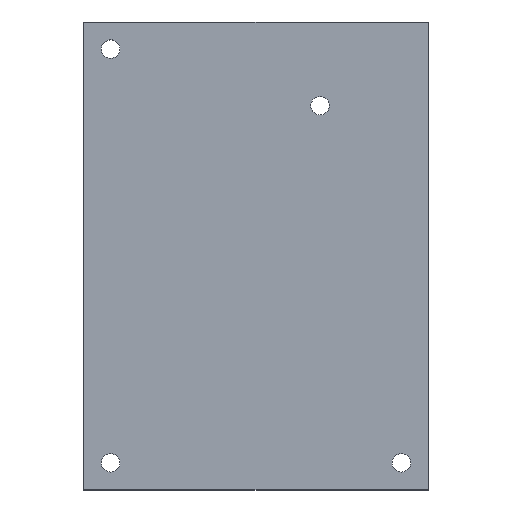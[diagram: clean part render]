
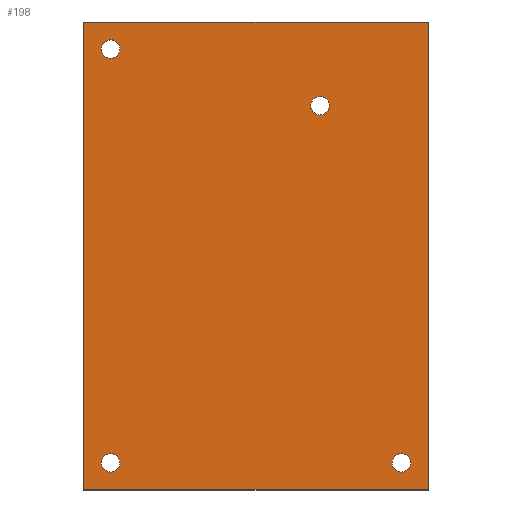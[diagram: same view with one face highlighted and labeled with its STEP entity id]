
A CAD part, top view. The second image highlights one B-rep face of the part: STEP entity #198.
In plain terms, the highlighted planar face has unit normal (0, 0, 1).
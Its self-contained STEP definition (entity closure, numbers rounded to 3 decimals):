
#42 = VERTEX_POINT('',#43);
#43 = CARTESIAN_POINT('',(144.,-119.,0.71));
#49 = EDGE_CURVE('',#42,#50,#52,.T.);
#50 = VERTEX_POINT('',#51);
#51 = CARTESIAN_POINT('',(116.,-119.,0.71));
#52 = LINE('',#53,#54);
#53 = CARTESIAN_POINT('',(144.,-119.,0.71));
#54 = VECTOR('',#55,1.);
#55 = DIRECTION('',(-1.,0.,0.));
#82 = VERTEX_POINT('',#83);
#83 = CARTESIAN_POINT('',(144.,-81.,0.71));
#89 = EDGE_CURVE('',#82,#42,#90,.T.);
#90 = LINE('',#91,#92);
#91 = CARTESIAN_POINT('',(144.,-81.,0.71));
#92 = VECTOR('',#93,1.);
#93 = DIRECTION('',(0.,-1.,0.));
#111 = EDGE_CURVE('',#50,#112,#114,.T.);
#112 = VERTEX_POINT('',#113);
#113 = CARTESIAN_POINT('',(116.,-81.,0.71));
#114 = LINE('',#115,#116);
#115 = CARTESIAN_POINT('',(116.,-119.,0.71));
#116 = VECTOR('',#117,1.);
#117 = DIRECTION('',(0.,1.,0.));
#198 = ADVANCED_FACE('',(#199,#210,#221,#232,#243),#254,.T.);
#199 = FACE_BOUND('',#200,.T.);
#200 = EDGE_LOOP('',(#201,#202,#203,#209));
#201 = ORIENTED_EDGE('',*,*,#49,.F.);
#202 = ORIENTED_EDGE('',*,*,#89,.F.);
#203 = ORIENTED_EDGE('',*,*,#204,.F.);
#204 = EDGE_CURVE('',#112,#82,#205,.T.);
#205 = LINE('',#206,#207);
#206 = CARTESIAN_POINT('',(116.,-81.,0.71));
#207 = VECTOR('',#208,1.);
#208 = DIRECTION('',(1.,0.,0.));
#209 = ORIENTED_EDGE('',*,*,#111,.F.);
#210 = FACE_BOUND('',#211,.T.);
#211 = EDGE_LOOP('',(#212));
#212 = ORIENTED_EDGE('',*,*,#213,.T.);
#213 = EDGE_CURVE('',#214,#214,#216,.T.);
#214 = VERTEX_POINT('',#215);
#215 = CARTESIAN_POINT('',(118.2,-117.55,0.71));
#216 = CIRCLE('',#217,0.75);
#217 = AXIS2_PLACEMENT_3D('',#218,#219,#220);
#218 = CARTESIAN_POINT('',(118.2,-116.8,0.71));
#219 = DIRECTION('',(-0.,0.,-1.));
#220 = DIRECTION('',(-0.,-1.,0.));
#221 = FACE_BOUND('',#222,.T.);
#222 = EDGE_LOOP('',(#223));
#223 = ORIENTED_EDGE('',*,*,#224,.T.);
#224 = EDGE_CURVE('',#225,#225,#227,.T.);
#225 = VERTEX_POINT('',#226);
#226 = CARTESIAN_POINT('',(141.8,-117.55,0.71));
#227 = CIRCLE('',#228,0.75);
#228 = AXIS2_PLACEMENT_3D('',#229,#230,#231);
#229 = CARTESIAN_POINT('',(141.8,-116.8,0.71));
#230 = DIRECTION('',(-0.,0.,-1.));
#231 = DIRECTION('',(-0.,-1.,0.));
#232 = FACE_BOUND('',#233,.T.);
#233 = EDGE_LOOP('',(#234));
#234 = ORIENTED_EDGE('',*,*,#235,.T.);
#235 = EDGE_CURVE('',#236,#236,#238,.T.);
#236 = VERTEX_POINT('',#237);
#237 = CARTESIAN_POINT('',(118.2,-83.95,0.71));
#238 = CIRCLE('',#239,0.75);
#239 = AXIS2_PLACEMENT_3D('',#240,#241,#242);
#240 = CARTESIAN_POINT('',(118.2,-83.2,0.71));
#241 = DIRECTION('',(-0.,0.,-1.));
#242 = DIRECTION('',(-0.,-1.,0.));
#243 = FACE_BOUND('',#244,.T.);
#244 = EDGE_LOOP('',(#245));
#245 = ORIENTED_EDGE('',*,*,#246,.T.);
#246 = EDGE_CURVE('',#247,#247,#249,.T.);
#247 = VERTEX_POINT('',#248);
#248 = CARTESIAN_POINT('',(135.2,-88.55,0.71));
#249 = CIRCLE('',#250,0.75);
#250 = AXIS2_PLACEMENT_3D('',#251,#252,#253);
#251 = CARTESIAN_POINT('',(135.2,-87.8,0.71));
#252 = DIRECTION('',(-0.,0.,-1.));
#253 = DIRECTION('',(-0.,-1.,0.));
#254 = PLANE('',#255);
#255 = AXIS2_PLACEMENT_3D('',#256,#257,#258);
#256 = CARTESIAN_POINT('',(0.,0.,0.71));
#257 = DIRECTION('',(0.,0.,1.));
#258 = DIRECTION('',(1.,0.,-0.));
